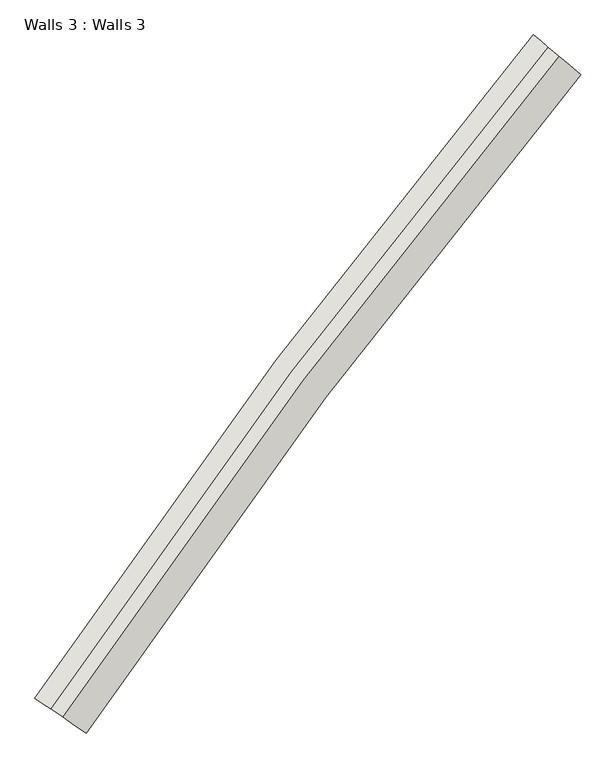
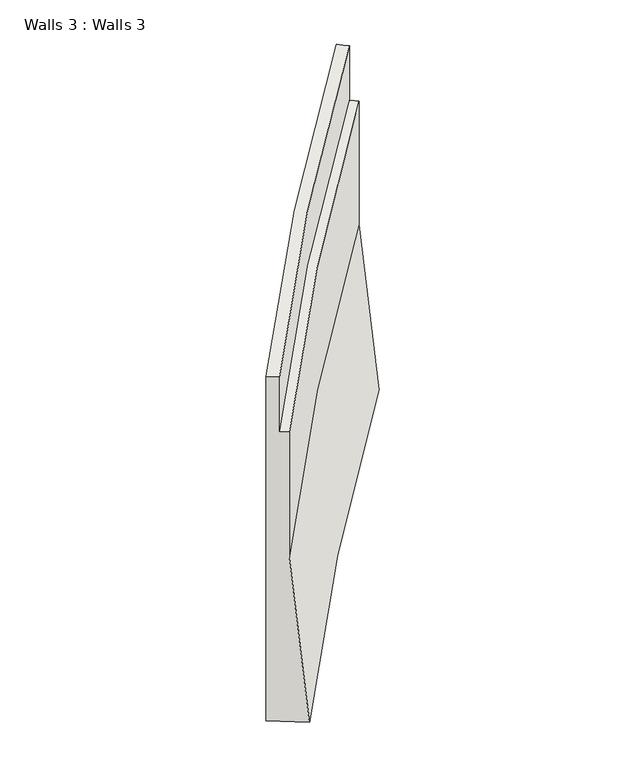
"""IFC4 building model written with IfcOpenShell, lengths in millimetres: wall geometry, Walls 3 : Walls 3."""

from ifc_helpers import new_model, si_unit, frame, origin, place, context, project, spatial, source, transform, mapped, element, save
from ifc_brep_helpers import plane_surface, spline_curve, spline_surface, advanced_brep


def walls_3_walls_3_d6b85a98(model_context):
    return source(origin(), model_context, "Body", "AdvancedBrep", [
        advanced_brep(
        [(-337919.0341781, -484996.9738613, 634350.0), (-338419.0343234, -484581.6428431, 634350.0), (-338419.0343234, -484581.6428431, 640610.0), (-338266.1148332, -484708.6672213, 640610.0), (-338266.1148332, -484708.6672213, 639610.0), (-338151.4252156, -484803.9355049, 639610.0), (-338151.4252156, -484803.9355049, 637350.0), (-343108.6665173, -491897.4438011, 634260.0), (-343356.8861473, -491728.9040001, 637260.0), (-343356.8861473, -491728.9040001, 639570.0), (-343480.9720857, -491644.6503117, 639570.0), (-343480.9720857, -491644.6503117, 640570.0), (-343646.4200036, -491532.3120605, 640570.0), (-343646.4200036, -491532.3120605, 634260.0)],
        [
            (0, 1),
            (1, 2),
            (2, 3),
            (3, 4),
            (4, 5),
            (5, 6),
            (6, 0),
            (7, 8),
            (8, 9),
            (9, 10),
            (10, 11),
            (11, 12),
            (12, 13),
            (13, 7),
            (12, 2, spline_curve(3, [(-343646.4200036, -491532.3120605, 640570.0), (-342831.861479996, -490332.6582451, 640576.666666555), (-341988.304508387, -489152.694300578, 640583.333333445), (-340245.164022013, -486834.902260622, 640596.666666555), (-339345.580507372, -485697.074165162, 640603.333333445), (-338419.0343234, -484581.6428431, 640610.0)], [4, 2, 4], [0.0, 14.271211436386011, 28.54242287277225])),
            (1, 13, spline_curve(3, [(-338419.0343234, -484581.6428431, 634350.0), (-339345.580507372, -485697.074165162, 634335.000000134), (-340245.164022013, -486834.902260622, 634319.999999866), (-341988.304508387, -489152.694300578, 634290.000000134), (-342831.861479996, -490332.6582451, 634274.999999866), (-343646.4200036, -491532.3120605, 634260.0)], [4, 2, 4], [0.0, 14.271211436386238, 28.54242287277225])),
            (11, 3, spline_curve(3, [(-343480.9720857, -491644.6503117, 640570.0), (-342668.387196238, -490447.55102931, 640576.666666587), (-341826.862920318, -489270.089953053, 640583.333333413), (-340087.900448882, -486957.195009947, 640596.666666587), (-339190.462253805, -485821.761143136, 640603.333333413), (-338266.1148332, -484708.6672213, 640610.0)], [4, 2, 4], [0.0, 14.255156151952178, 28.510312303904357])),
            (10, 4, spline_curve(3, [(-343480.9720857, -491644.6503117, 639570.0), (-342668.387196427, -490447.55102956, 639576.666666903), (-341826.86292015, -489270.089953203, 639583.333333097), (-340087.90044905, -486957.195009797, 639596.666666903), (-339190.462254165, -485821.761143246, 639603.333333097), (-338266.1148332, -484708.6672213, 639610.0)], [4, 2, 4], [0.0, 14.239348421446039, 28.47869684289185])),
            (9, 5, spline_curve(3, [(-343356.8861473, -491728.9040001, 639570.0), (-342545.781483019, -490533.72061788, 639576.666666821), (-341705.781729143, -489358.136692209, 639583.333333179), (-339969.952769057, -487048.914572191, 639596.666666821), (-339074.123563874, -485915.276377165, 639603.333333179), (-338151.4252156, -484803.9355049, 639610.0)], [4, 2, 4], [0.0, 14.227492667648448, 28.454985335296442])),
            (8, 6, spline_curve(3, [(-343356.8861473, -491728.9040001, 637260.0), (-342545.781483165, -490533.720617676, 637274.999999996), (-341705.781728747, -489358.136692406, 637290.000000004), (-339969.952769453, -487048.914571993, 637319.999999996), (-339074.123563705, -485915.276376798, 637335.000000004), (-338151.4252156, -484803.9355049, 637350.0)], [4, 2, 4], [0.0, 14.21588540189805, 28.431770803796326])),
            (7, 0, spline_curve(3, [(-343108.6665173, -491897.4438011, 634260.0), (-342299.990916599, -490706.454152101, 634274.999999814), (-341462.5263009, -489535.012169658, 634290.000000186), (-339731.9751621, -487233.959738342, 634319.999999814), (-338838.888639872, -486104.349290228, 634335.000000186), (-337919.0341781, -484996.9738613, 634350.0)], [4, 2, 4], [0.0, 14.192383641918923, 28.384767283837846])),
        ],
        [
            plane_surface(frame((-338227.4547032, -484740.7807143, 638070.0), z_axis=(0.6389707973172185, 0.769230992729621, -1.3329597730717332e-12), x_axis=(0.769230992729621, -0.6389707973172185, 0.0))),
            plane_surface(frame((-343439.6032844, -491672.7395065, 638008.5714286), z_axis=(-0.5617411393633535, -0.8273130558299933, 0.0), x_axis=(-0.8273130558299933, 0.5617411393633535, 0.0))),
            spline_surface(3, 3, [[(-343646.4200036, -491532.3120605, 634260.0), (-342831.861480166, -490332.658244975, 634275.0), (-341988.304508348, -489152.694300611, 634290.0), (-340245.164022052, -486834.902260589, 634320.0), (-339345.580507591, -485697.07416495, 634335.0), (-338419.0343234, -484581.6428431, 634350.0)], [(-343646.4200036, -491532.3120605, 635311.666666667), (-342831.861480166, -490332.658244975, 635325.277777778), (-341988.304508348, -489152.694300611, 635338.888888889), (-340245.164022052, -486834.902260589, 635366.111111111), (-339345.580507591, -485697.07416495, 635379.722222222), (-338419.0343234, -484581.6428431, 635393.333333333)], [(-343646.4200036, -491532.3120605, 636363.333333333), (-342831.861480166, -490332.658244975, 636375.555555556), (-341988.304508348, -489152.694300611, 636387.777777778), (-340245.164022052, -486834.902260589, 636412.222222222), (-339345.580507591, -485697.07416495, 636424.444444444), (-338419.0343234, -484581.6428431, 636436.666666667)], [(-343646.4200036, -491532.3120605, 638466.666666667), (-342831.861480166, -490332.658244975, 638476.111111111), (-341988.304508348, -489152.694300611, 638485.555555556), (-340245.164022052, -486834.902260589, 638504.444444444), (-339345.580507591, -485697.07416495, 638513.888888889), (-338419.0343234, -484581.6428431, 638523.333333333)], [(-343646.4200036, -491532.3120605, 639518.333333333), (-342831.861480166, -490332.658244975, 639526.388888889), (-341988.304508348, -489152.694300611, 639534.444444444), (-340245.164022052, -486834.902260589, 639550.555555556), (-339345.580507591, -485697.07416495, 639558.611111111), (-338419.0343234, -484581.6428431, 639566.666666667)], [(-343646.4200036, -491532.3120605, 640570.0), (-342831.861480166, -490332.658244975, 640576.666666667), (-341988.304508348, -489152.694300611, 640583.333333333), (-340245.164022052, -486834.902260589, 640596.666666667), (-339345.580507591, -485697.07416495, 640603.333333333), (-338419.0343234, -484581.6428431, 640610.0)]], [4, 2, 4], [4, 2, 4], [0.0, 10.310039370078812, 20.620078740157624], [0.0, 14.271211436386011, 28.54242287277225]),
            spline_surface(3, 3, [[(-343646.4200036, -491532.3120605, 640570.0), (-342831.861480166, -490332.658244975, 640576.666666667), (-341988.304508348, -489152.694300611, 640583.333333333), (-340245.164022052, -486834.902260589, 640596.666666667), (-339345.580507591, -485697.07416495, 640603.333333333), (-338419.0343234, -484581.6428431, 640610.0)], [(-343618.845350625, -491551.035102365, 640570.0), (-342804.615766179, -490351.807042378, 640576.666666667), (-341961.397576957, -489172.260242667, 640583.333333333), (-340218.953426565, -486855.284385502, 640596.666666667), (-339319.727465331, -485717.855328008, 640603.333333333), (-338393.547741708, -484602.813572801, 640610.0)], [(-343591.270697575, -491569.758144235, 640570.0), (-342777.370052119, -490370.955839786, 640576.666666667), (-341934.490645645, -489191.826184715, 640583.333333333), (-340192.742831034, -486875.666510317, 640596.666666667), (-339293.874423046, -485738.636491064, 640603.333333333), (-338368.061159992, -484623.984302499, 640610.0)], [(-343536.121391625, -491607.204227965, 640570.0), (-342722.878624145, -490409.253434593, 640576.666666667), (-341880.676782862, -489230.958068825, 640583.333333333), (-340140.321640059, -486916.430760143, 640596.666666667), (-339242.168338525, -485780.198817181, 640603.333333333), (-338317.087996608, -484666.325761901, 640610.0)], [(-343508.546738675, -491625.927269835, 640570.0), (-342695.632910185, -490428.402232, 640576.666666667), (-341853.76985155, -489250.524010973, 640583.333333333), (-340114.111044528, -486936.812885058, 640596.666666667), (-339216.31529624, -485800.979980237, 640603.333333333), (-338291.601414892, -484687.496491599, 640610.0)], [(-343480.9720857, -491644.6503117, 640570.0), (-342668.387196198, -490447.551029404, 640576.666666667), (-341826.862920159, -489270.089953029, 640583.333333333), (-340087.900449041, -486957.195009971, 640596.666666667), (-339190.462253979, -485821.761143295, 640603.333333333), (-338266.1148332, -484708.6672213, 640610.0)]], [4, 2, 4], [4, 2, 4], [0.0, 0.32708129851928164, 0.6541625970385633], [0.0, 14.255156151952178, 28.510312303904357]),
            spline_surface(3, 3, [[(-343480.9720857, -491644.6503117, 640570.0), (-342668.387196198, -490447.551029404, 640576.666666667), (-341826.862920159, -489270.089953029, 640583.333333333), (-340087.900449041, -486957.195009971, 640596.666666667), (-339190.462253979, -485821.761143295, 640603.333333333), (-338266.1148332, -484708.6672213, 640610.0)], [(-343480.9720857, -491644.6503117, 640403.333333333), (-342668.387196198, -490447.551029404, 640410.0), (-341826.862920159, -489270.089953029, 640416.666666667), (-340087.900449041, -486957.195009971, 640430.0), (-339190.462253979, -485821.761143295, 640436.666666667), (-338266.1148332, -484708.6672213, 640443.333333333)], [(-343480.9720857, -491644.6503117, 640236.666666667), (-342668.387196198, -490447.551029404, 640243.333333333), (-341826.862920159, -489270.089953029, 640250.0), (-340087.900449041, -486957.195009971, 640263.333333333), (-339190.462253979, -485821.761143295, 640270.0), (-338266.1148332, -484708.6672213, 640276.666666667)], [(-343480.9720857, -491644.6503117, 639903.333333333), (-342668.387196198, -490447.551029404, 639910.0), (-341826.862920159, -489270.089953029, 639916.666666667), (-340087.900449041, -486957.195009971, 639930.0), (-339190.462253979, -485821.761143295, 639936.666666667), (-338266.1148332, -484708.6672213, 639943.333333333)], [(-343480.9720857, -491644.6503117, 639736.666666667), (-342668.387196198, -490447.551029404, 639743.333333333), (-341826.862920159, -489270.089953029, 639750.0), (-340087.900449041, -486957.195009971, 639763.333333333), (-339190.462253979, -485821.761143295, 639770.0), (-338266.1148332, -484708.6672213, 639776.666666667)], [(-343480.9720857, -491644.6503117, 639570.0), (-342668.387196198, -490447.551029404, 639576.666666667), (-341826.862920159, -489270.089953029, 639583.333333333), (-340087.900449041, -486957.195009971, 639596.666666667), (-339190.462253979, -485821.761143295, 639603.333333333), (-338266.1148332, -484708.6672213, 639610.0)]], [4, 2, 4], [4, 2, 4], [0.0, 1.6404199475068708, 3.2808398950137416], [0.0, 14.239348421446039, 28.47869684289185]),
            spline_surface(3, 3, [[(-343480.9720857, -491644.6503117, 639570.0), (-342668.387196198, -490447.551029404, 639576.666666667), (-341826.862920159, -489270.089953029, 639583.333333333), (-340087.900449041, -486957.195009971, 639596.666666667), (-339190.462253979, -485821.761143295, 639603.333333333), (-338266.1148332, -484708.6672213, 639610.0)], [(-343460.291095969, -491658.692593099, 639570.0), (-342647.952910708, -490461.912627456, 639576.666666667), (-341806.682721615, -489284.76440957, 639583.333333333), (-340068.242502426, -486972.481603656, 639596.666666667), (-339171.072472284, -485837.347015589, 639603.333333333), (-338246.999896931, -484724.545268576, 639610.0)], [(-343439.610106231, -491672.734874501, 639570.0), (-342627.518625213, -490476.274225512, 639576.666666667), (-341786.502523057, -489299.438866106, 639583.333333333), (-340048.584555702, -486987.768197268, 639596.666666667), (-339151.682690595, -485852.932887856, 639603.333333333), (-338227.884960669, -484740.423315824, 639610.0)], [(-343398.248126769, -491700.819437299, 639570.0), (-342586.650054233, -490504.997421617, 639576.666666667), (-341746.14212597, -489328.787779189, 639583.333333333), (-340009.268662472, -487018.341384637, 639596.666666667), (-339112.903127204, -485884.104632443, 639603.333333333), (-338189.655088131, -484772.179410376, 639610.0)], [(-343377.567137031, -491714.861718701, 639570.0), (-342566.215768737, -490519.359019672, 639576.666666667), (-341725.961927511, -489343.462235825, 639583.333333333), (-339989.610715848, -487033.627978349, 639596.666666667), (-339093.513345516, -485899.69050471, 639603.333333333), (-338170.540151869, -484788.057457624, 639610.0)], [(-343356.8861473, -491728.9040001, 639570.0), (-342545.781483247, -490533.720617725, 639576.666666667), (-341705.781728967, -489358.136692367, 639583.333333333), (-339969.952769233, -487048.914572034, 639596.666666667), (-339074.12356382, -485915.276377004, 639603.333333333), (-338151.4252156, -484803.9355049, 639610.0)]], [4, 2, 4], [4, 2, 4], [0.0, 0.24531097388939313, 0.49062194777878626], [0.0, 14.227492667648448, 28.454985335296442]),
            spline_surface(3, 3, [[(-343356.8861473, -491728.9040001, 639570.0), (-342545.781483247, -490533.720617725, 639576.666666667), (-341705.781728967, -489358.136692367, 639583.333333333), (-339969.952769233, -487048.914572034, 639596.666666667), (-339074.12356382, -485915.276377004, 639603.333333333), (-338151.4252156, -484803.9355049, 639610.0)], [(-343356.8861473, -491728.9040001, 639185.0), (-342545.781483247, -490533.720617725, 639193.055555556), (-341705.781728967, -489358.136692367, 639201.111111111), (-339969.952769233, -487048.914572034, 639217.222222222), (-339074.12356382, -485915.276377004, 639225.277777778), (-338151.4252156, -484803.9355049, 639233.333333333)], [(-343356.8861473, -491728.9040001, 638800.0), (-342545.781483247, -490533.720617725, 638809.444444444), (-341705.781728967, -489358.136692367, 638818.888888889), (-339969.952769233, -487048.914572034, 638837.777777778), (-339074.12356382, -485915.276377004, 638847.222222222), (-338151.4252156, -484803.9355049, 638856.666666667)], [(-343356.8861473, -491728.9040001, 638030.0), (-342545.781483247, -490533.720617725, 638042.222222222), (-341705.781728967, -489358.136692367, 638054.444444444), (-339969.952769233, -487048.914572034, 638078.888888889), (-339074.12356382, -485915.276377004, 638091.111111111), (-338151.4252156, -484803.9355049, 638103.333333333)], [(-343356.8861473, -491728.9040001, 637645.0), (-342545.781483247, -490533.720617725, 637658.611111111), (-341705.781728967, -489358.136692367, 637672.222222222), (-339969.952769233, -487048.914572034, 637699.444444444), (-339074.12356382, -485915.276377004, 637713.055555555), (-338151.4252156, -484803.9355049, 637726.666666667)], [(-343356.8861473, -491728.9040001, 637260.0), (-342545.781483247, -490533.720617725, 637275.0), (-341705.781728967, -489358.136692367, 637290.0), (-339969.952769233, -487048.914572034, 637320.0), (-339074.12356382, -485915.276377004, 637335.0), (-338151.4252156, -484803.9355049, 637350.0)]], [4, 2, 4], [4, 2, 4], [0.0, 3.7483595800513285, 7.496719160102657], [0.0, 14.21588540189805, 28.431770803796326]),
            spline_surface(3, 3, [[(-343356.8861473, -491728.9040001, 637260.0), (-342545.781483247, -490533.720617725, 637275.0), (-341705.781728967, -489358.136692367, 637290.0), (-339969.952769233, -487048.914572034, 637320.0), (-339074.12356382, -485915.276377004, 637335.0), (-338151.4252156, -484803.9355049, 637350.0)], [(-343315.516208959, -491756.993966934, 636760.0), (-342504.816388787, -490562.509540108, 636775.0), (-341665.239157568, -489387.615938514, 636790.0), (-339930.289834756, -487079.75543317, 636820.0), (-339034.917743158, -485946.788529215, 636835.0), (-338112.693376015, -484836.108564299, 636850.0)], [(-343274.146270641, -491785.083933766, 636260.0), (-342463.851294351, -490591.298462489, 636275.0), (-341624.696586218, -489417.095184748, 636290.0), (-339890.626900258, -487110.596294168, 636320.0), (-338995.711922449, -485978.300681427, 636335.0), (-338073.961536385, -484868.2816237, 636350.0)], [(-343191.406393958, -491841.263867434, 635260.0), (-342381.92110543, -490648.876307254, 635275.0), (-341543.61144342, -489476.053677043, 635290.0), (-339811.301031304, -487172.278016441, 635320.0), (-338917.300281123, -486041.324985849, 635335.0), (-337996.497857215, -484932.6277425, 635350.0)], [(-343150.036455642, -491869.353834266, 634760.0), (-342340.956010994, -490677.665229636, 634775.0), (-341503.06887207, -489505.532923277, 634790.0), (-339771.638096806, -487203.118877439, 634820.0), (-338878.094460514, -486072.837138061, 634835.0), (-337957.766017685, -484964.800801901, 634850.0)], [(-343108.6665173, -491897.4438011, 634260.0), (-342299.990916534, -490706.454152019, 634275.0), (-341462.526300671, -489535.012169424, 634290.0), (-339731.975162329, -487233.959738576, 634320.0), (-338838.888639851, -486104.349290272, 634335.0), (-337919.0341781, -484996.9738613, 634350.0)]], [4, 2, 4], [4, 2, 4], [0.0, 4.945979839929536, 9.891959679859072], [0.0, 14.192383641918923, 28.384767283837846]),
            spline_surface(3, 3, [[(-343108.6665173, -491897.4438011, 634260.0), (-342299.990916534, -490706.454152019, 634275.0), (-341462.526300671, -489535.012169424, 634290.0), (-339731.975162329, -487233.959738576, 634320.0), (-338838.888639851, -486104.349290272, 634335.0), (-337919.0341781, -484996.9738613, 634350.0)], [(-343198.292098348, -491836.588511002, 634260.0), (-342388.636010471, -490644.15483418, 634275.0), (-341550.156002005, -489471.29252468, 634290.0), (-339817.506638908, -487167.450158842, 634320.0), (-338923.33728447, -486036.470102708, 634335.0), (-338002.367535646, -484927.752024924, 634350.0)], [(-343287.917679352, -491775.733220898, 634260.0), (-342477.281104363, -490581.855516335, 634275.0), (-341637.785703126, -489407.572879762, 634290.0), (-339903.038115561, -487100.940579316, 634320.0), (-339007.785929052, -485968.590915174, 634335.0), (-338085.700893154, -484858.530188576, 634350.0)], [(-343467.168841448, -491654.022640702, 634260.0), (-342654.571292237, -490457.256880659, 634275.0), (-341813.045105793, -489280.133590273, 634290.0), (-340074.10106872, -486967.921419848, 634320.0), (-339176.68321829, -485832.832540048, 634335.0), (-338252.367608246, -484720.086515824, 634350.0)], [(-343556.794422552, -491593.167350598, 634260.0), (-342743.216386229, -490394.957562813, 634275.0), (-341900.674807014, -489216.413945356, 634290.0), (-340159.632545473, -486901.411840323, 634320.0), (-339261.131862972, -485764.953352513, 634335.0), (-338335.700965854, -484650.864679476, 634350.0)], [(-343646.4200036, -491532.3120605, 634260.0), (-342831.861480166, -490332.658244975, 634275.0), (-341988.304508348, -489152.694300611, 634290.0), (-340245.164022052, -486834.902260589, 634320.0), (-339345.580507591, -485697.07416495, 634335.0), (-338419.0343234, -484581.6428431, 634350.0)]], [4, 2, 4], [4, 2, 4], [0.0, 1.0662729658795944, 2.132545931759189], [0.0, 14.220046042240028, 28.440092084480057]),
        ],
        [
            (0, [[1, 2, 3, 4, 5, 6, 7]]),
            (1, [[8, 9, 10, 11, 12, 13, 14]]),
            (2, [[-13, 15, -2, 16]]),
            (3, [[-12, 17, -3, -15]]),
            (4, [[-11, 18, -4, -17]]),
            (5, [[-10, 19, -5, -18]]),
            (6, [[-9, 20, -6, -19]]),
            (7, [[-8, 21, -7, -20]]),
            (8, [[-14, -16, -1, -21]]),
        ],
    ),
    ])


if __name__ == "__main__":
    model = new_model("IFC4")
    model_context = context("Model", 3, world=origin())
    ifc_project = project(units=[si_unit("LENGTHUNIT", "METRE", prefix="MILLI")], contexts=[model_context])
    site = spatial("IfcSite", under=ifc_project)
    building = spatial("IfcBuilding", under=site)
    placement = place(None, origin())
    walls_3_walls_3_shape = walls_3_walls_3_d6b85a98(model_context)
    element("IfcWall", 1, ObjectType="Walls 3 : Walls 3", at=placement, inside=building, context=model_context, shape_type="MappedRepresentation", body=[
        mapped(walls_3_walls_3_shape, transform((0.0, 0.0, 0.0), x_axis=(1.0, 0.0, 0.0), y_axis=(0.0, 1.0, 0.0), z_axis=(0.0, 0.0, 1.0))),
    ])
    save(model, "model.ifc")
